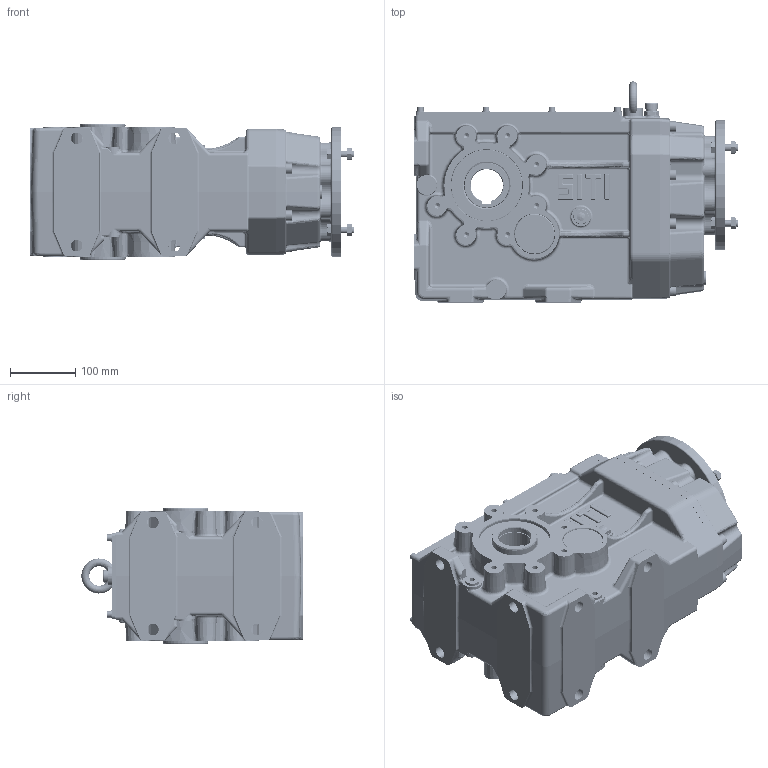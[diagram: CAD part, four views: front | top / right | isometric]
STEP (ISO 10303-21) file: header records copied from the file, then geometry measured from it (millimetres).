
FILE_DESCRIPTION((''),'2;1');
FILE_NAME('C:\Users\m.piscopiello.SITIRIDUTTORI\Desktop\3D x SITO\MBH 100 PAM 80\MBH_100 C PAM 80.stp','2013-05-02T12:56:14',('m.piscopiello'),(''),'Autodesk Inventor 2012','Autodesk Inventor 2012','');
FILE_SCHEMA(('CONFIG_CONTROL_DESIGN'));
Length unit declared in the file: millimetre
Products named in the file (1): MBH_100 C PAM 80
Bounding box: 498.5 x 339.91 x 210 mm (x, y, z)
Volume: 6489366 mm3; surface area: 1401129.1 mm2
Topology: 61 solids, 63 shells, 3838 faces, 9007 edges, 5353 vertices
Faces by surface type: cylinder 1232, plane 1144, bspline 553, torus 386, cone 289, sphere 234
Full cylindrical faces by diameter (mm): 4.917 x8, 6 x16, 6.4 x8, 6.647 x8, 7 x8, 8 x8, 8.376 x22, 9 x8, 10 x32, 10.106 x3, 11 x14, 12 x9, 12.5 x8, 13 x8, 14 x8, 14.63 x4, 14.95 x1, 16 x9, 16.6 x7, 18 x8, 19 x1, 19.05 x1, 19.5 x1, 20 x1, 26 x1, 30 x5, 37.5 x1, 39.37 x1, 39.9 x1, 39.97 x1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
Entity records: 128801 total; most frequent: CARTESIAN_POINT 42483, DIRECTION 17435, ORIENTED_EDGE 16296, EDGE_CURVE 8148, AXIS2_PLACEMENT_3D 7226, VERTEX_POINT 5106, EDGE_LOOP 4601, STYLED_ITEM 3896
